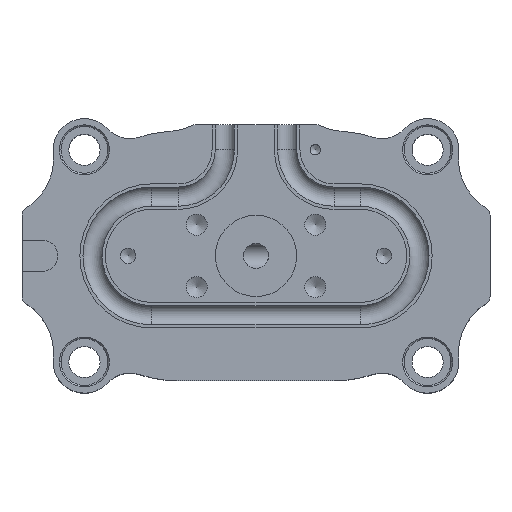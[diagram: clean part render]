
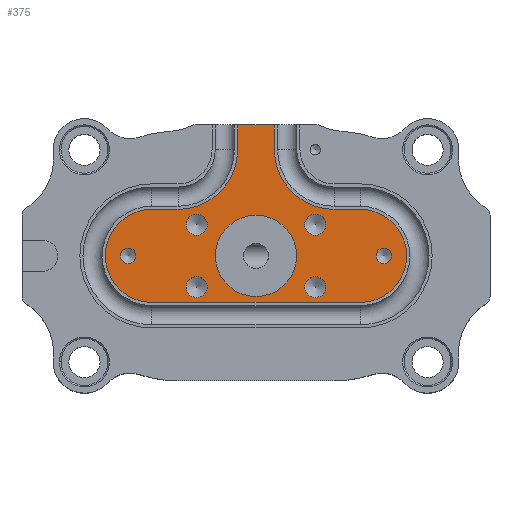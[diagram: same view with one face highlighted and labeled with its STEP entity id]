
A CAD part, top view. The second image highlights one B-rep face of the part: STEP entity #375.
In plain terms, the highlighted planar face has unit normal (0, 0, 1).
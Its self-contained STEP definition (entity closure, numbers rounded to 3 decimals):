
#375=ADVANCED_FACE('',(#857,#858,#859,#860,#861,#862,#863,#864),#865,.T.);
#857=FACE_BOUND('',#1448,.T.);
#858=FACE_BOUND('',#1449,.T.);
#859=FACE_OUTER_BOUND('',#1450,.T.);
#860=FACE_BOUND('',#1451,.T.);
#861=FACE_BOUND('',#1452,.T.);
#862=FACE_BOUND('',#1453,.T.);
#863=FACE_BOUND('',#1454,.T.);
#864=FACE_BOUND('',#1455,.T.);
#865=PLANE('',#1456);
#1448=EDGE_LOOP('',(#2438));
#1449=EDGE_LOOP('',(#2439));
#1450=EDGE_LOOP('',(#2440,#2441,#2442,#2443,#2444,#2445,#2446,#2447,#2448,#2449));
#1451=EDGE_LOOP('',(#2450));
#1452=EDGE_LOOP('',(#2451));
#1453=EDGE_LOOP('',(#2452));
#1454=EDGE_LOOP('',(#2453));
#1455=EDGE_LOOP('',(#2454));
#1456=AXIS2_PLACEMENT_3D('',#2455,#2456,#2457);
#2438=ORIENTED_EDGE('',*,*,#3442,.T.);
#2439=ORIENTED_EDGE('',*,*,#3475,.T.);
#2440=ORIENTED_EDGE('',*,*,#3476,.F.);
#2441=ORIENTED_EDGE('',*,*,#3273,.F.);
#2442=ORIENTED_EDGE('',*,*,#3428,.F.);
#2443=ORIENTED_EDGE('',*,*,#3477,.F.);
#2444=ORIENTED_EDGE('',*,*,#3313,.F.);
#2445=ORIENTED_EDGE('',*,*,#3407,.F.);
#2446=ORIENTED_EDGE('',*,*,#3478,.F.);
#2447=ORIENTED_EDGE('',*,*,#3479,.F.);
#2448=ORIENTED_EDGE('',*,*,#3480,.F.);
#2449=ORIENTED_EDGE('',*,*,#3481,.T.);
#2450=ORIENTED_EDGE('',*,*,#3482,.T.);
#2451=ORIENTED_EDGE('',*,*,#3467,.T.);
#2452=ORIENTED_EDGE('',*,*,#3483,.T.);
#2453=ORIENTED_EDGE('',*,*,#3484,.T.);
#2454=ORIENTED_EDGE('',*,*,#3485,.T.);
#2455=CARTESIAN_POINT('',(-25.0,0.0,0.0));
#2456=DIRECTION('',(0.0,-0.0,1.0));
#2457=DIRECTION('',(1.0,0.,0.0));
#3273=EDGE_CURVE('',#3932,#3933,#3934,.T.);
#3313=EDGE_CURVE('',#4001,#4002,#4003,.T.);
#3407=EDGE_CURVE('',#4136,#4001,#4137,.F.);
#3428=EDGE_CURVE('',#4162,#3932,#4163,.T.);
#3442=EDGE_CURVE('',#4181,#4181,#4182,.T.);
#3467=EDGE_CURVE('',#4216,#4216,#4217,.T.);
#3475=EDGE_CURVE('',#4228,#4228,#4229,.T.);
#3476=EDGE_CURVE('',#3933,#4230,#4231,.T.);
#3477=EDGE_CURVE('',#4002,#4162,#4232,.F.);
#3478=EDGE_CURVE('',#4233,#4136,#4234,.T.);
#3479=EDGE_CURVE('',#4235,#4233,#4236,.T.);
#3480=EDGE_CURVE('',#4237,#4235,#4238,.T.);
#3481=EDGE_CURVE('',#4237,#4230,#4239,.T.);
#3482=EDGE_CURVE('',#4240,#4240,#4241,.T.);
#3483=EDGE_CURVE('',#4242,#4242,#4243,.T.);
#3484=EDGE_CURVE('',#4244,#4244,#4245,.T.);
#3485=EDGE_CURVE('',#4246,#4246,#4247,.F.);
#3932=VERTEX_POINT('',#4850);
#3933=VERTEX_POINT('',#4851);
#3934=CIRCLE('',#4852,19.091);
#4001=VERTEX_POINT('',#4937);
#4002=VERTEX_POINT('',#4938);
#4003=LINE('',#4939,#4940);
#4136=VERTEX_POINT('',#5102);
#4137=CIRCLE('',#5103,14.909);
#4162=VERTEX_POINT('',#5136);
#4163=LINE('',#5137,#5138);
#4181=VERTEX_POINT('',#5158);
#4182=CIRCLE('',#5159,2.5);
#4216=VERTEX_POINT('',#5202);
#4217=CIRCLE('',#5203,3.375);
#4228=VERTEX_POINT('',#5217);
#4229=CIRCLE('',#5218,2.5);
#4230=VERTEX_POINT('',#5219);
#4231=LINE('',#5220,#5221);
#4232=CIRCLE('',#5222,14.909);
#4233=VERTEX_POINT('',#5223);
#4234=LINE('',#5224,#5225);
#4235=VERTEX_POINT('',#5226);
#4236=CIRCLE('',#5227,19.091);
#4237=VERTEX_POINT('',#5228);
#4238=LINE('',#5229,#5230);
#4239=LINE('',#5231,#5232);
#4240=VERTEX_POINT('',#5233);
#4241=CIRCLE('',#5234,3.375);
#4242=VERTEX_POINT('',#5235);
#4243=CIRCLE('',#5236,3.375);
#4244=VERTEX_POINT('',#5237);
#4245=CIRCLE('',#5238,3.375);
#4246=VERTEX_POINT('',#5239);
#4247=CIRCLE('',#5240,13.0);
#4850=CARTESIAN_POINT('',(-25.0,14.909,0.));
#4851=CARTESIAN_POINT('',(-5.909,34.0,0.0));
#4852=AXIS2_PLACEMENT_3D('',#5831,#5832,#5833);
#4937=CARTESIAN_POINT('',(33.374,-14.909,0.0));
#4938=CARTESIAN_POINT('',(-33.374,-14.909,0.));
#4939=CARTESIAN_POINT('',(-25.0,-14.909,0.0));
#4940=VECTOR('',#5894,1.0);
#5102=CARTESIAN_POINT('',(33.374,14.909,0.));
#5103=AXIS2_PLACEMENT_3D('',#6020,#6021,#6022);
#5136=CARTESIAN_POINT('',(-33.374,14.909,0.0));
#5137=CARTESIAN_POINT('',(-25.0,14.909,0.0));
#5138=VECTOR('',#6040,1.0);
#5158=CARTESIAN_POINT('',(-38.5,0.0,0.0));
#5159=AXIS2_PLACEMENT_3D('',#6058,#6059,#6060);
#5202=CARTESIAN_POINT('',(-15.625,10.0,0.0));
#5203=AXIS2_PLACEMENT_3D('',#6085,#6086,#6087);
#5217=CARTESIAN_POINT('',(43.5,0.0,0.0));
#5218=AXIS2_PLACEMENT_3D('',#6094,#6095,#6096);
#5219=CARTESIAN_POINT('',(-5.909,42.0,0.));
#5220=CARTESIAN_POINT('',(-5.909,0.,0.0));
#5221=VECTOR('',#6097,1.0);
#5222=AXIS2_PLACEMENT_3D('',#6098,#6099,#6100);
#5223=CARTESIAN_POINT('',(25.0,14.909,0.0));
#5224=CARTESIAN_POINT('',(-25.0,14.909,0.0));
#5225=VECTOR('',#6101,1.0);
#5226=CARTESIAN_POINT('',(5.909,34.0,0.));
#5227=AXIS2_PLACEMENT_3D('',#6102,#6103,#6104);
#5228=CARTESIAN_POINT('',(5.909,42.0,0.0));
#5229=CARTESIAN_POINT('',(5.909,0.,0.0));
#5230=VECTOR('',#6105,1.0);
#5231=CARTESIAN_POINT('',(22.0,42.0,0.0));
#5232=VECTOR('',#6106,1.0);
#5233=CARTESIAN_POINT('',(-15.625,-10.0,0.0));
#5234=AXIS2_PLACEMENT_3D('',#6107,#6108,#6109);
#5235=CARTESIAN_POINT('',(22.375,10.0,0.0));
#5236=AXIS2_PLACEMENT_3D('',#6110,#6111,#6112);
#5237=CARTESIAN_POINT('',(22.375,-10.0,0.0));
#5238=AXIS2_PLACEMENT_3D('',#6113,#6114,#6115);
#5239=CARTESIAN_POINT('',(13.0,0.,0.0));
#5240=AXIS2_PLACEMENT_3D('',#6116,#6117,#6118);
#5831=CARTESIAN_POINT('',(-25.0,34.0,0.0));
#5832=DIRECTION('',(0.0,0.0,1.0));
#5833=DIRECTION('',(1.0,0.0,0.0));
#5894=DIRECTION('',(-1.0,0.0,0.0));
#6020=CARTESIAN_POINT('',(33.374,0.,0.0));
#6021=DIRECTION('',(0.0,0.0,1.0));
#6022=DIRECTION('',(1.0,0.0,0.0));
#6040=DIRECTION('',(1.0,0.0,0.0));
#6058=CARTESIAN_POINT('',(-41.0,0.0,0.0));
#6059=DIRECTION('',(0.0,0.0,-1.0));
#6060=DIRECTION('',(1.0,0.0,0.0));
#6085=CARTESIAN_POINT('',(-19.0,10.0,0.0));
#6086=DIRECTION('',(0.0,0.0,-1.0));
#6087=DIRECTION('',(1.0,0.0,0.0));
#6094=CARTESIAN_POINT('',(41.0,0.0,0.0));
#6095=DIRECTION('',(0.0,0.0,-1.0));
#6096=DIRECTION('',(1.0,0.0,0.0));
#6097=DIRECTION('',(0.,1.0,0.0));
#6098=CARTESIAN_POINT('',(-33.374,0.,0.0));
#6099=DIRECTION('',(0.0,0.0,1.0));
#6100=DIRECTION('',(1.0,0.0,0.0));
#6101=DIRECTION('',(1.0,0.0,0.0));
#6102=CARTESIAN_POINT('',(25.0,34.0,0.0));
#6103=DIRECTION('',(0.0,0.0,1.0));
#6104=DIRECTION('',(1.0,0.0,0.0));
#6105=DIRECTION('',(0.,-1.0,0.0));
#6106=DIRECTION('',(-1.0,0.0,0.0));
#6107=CARTESIAN_POINT('',(-19.0,-10.0,0.0));
#6108=DIRECTION('',(0.0,0.0,-1.0));
#6109=DIRECTION('',(1.0,0.0,0.0));
#6110=CARTESIAN_POINT('',(19.0,10.0,0.0));
#6111=DIRECTION('',(0.0,0.0,-1.0));
#6112=DIRECTION('',(1.0,0.0,0.0));
#6113=CARTESIAN_POINT('',(19.0,-10.0,0.0));
#6114=DIRECTION('',(0.0,0.0,-1.0));
#6115=DIRECTION('',(1.0,0.0,0.0));
#6116=CARTESIAN_POINT('',(0.,0.0,0.0));
#6117=DIRECTION('',(0.0,0.0,1.0));
#6118=DIRECTION('',(1.0,0.0,0.0));
